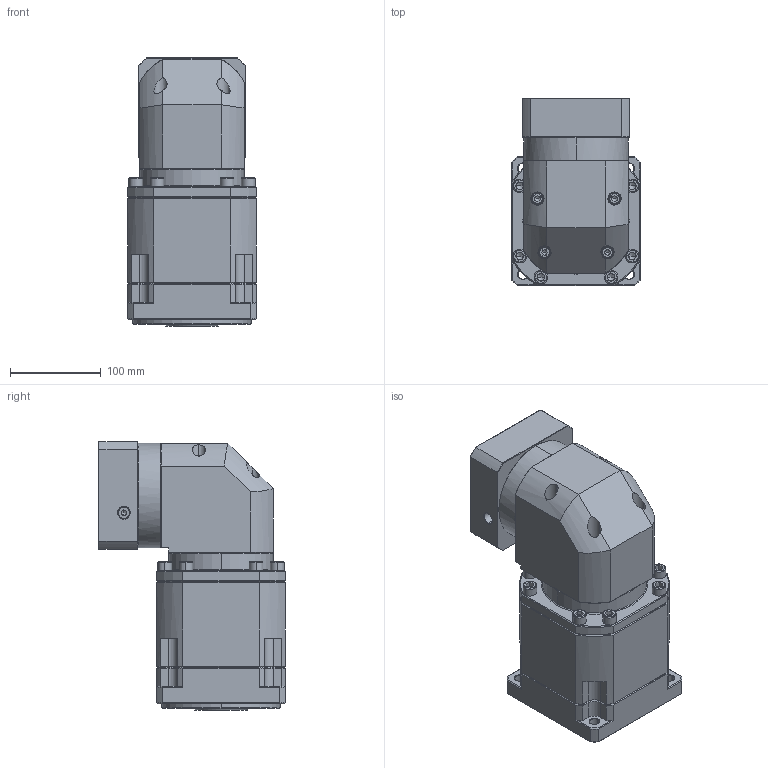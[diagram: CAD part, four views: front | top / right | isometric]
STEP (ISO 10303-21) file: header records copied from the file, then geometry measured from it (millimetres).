
FILE_DESCRIPTION (( 'STEP AP214' ), '1' );
FILE_NAME ('ZBR142A-K35-L3-P2-22-95-115-M8.step', '2023-09-02T08:15:04', ( '' ), ( '' ), 'SwSTEP 2.0', 'SolidWorks 2016', '' );
FILE_SCHEMA (( 'AUTOMOTIVE_DESIGN' ));
Length unit declared in the file: millimetre
Products named in the file (1): ZBR142A-K35-L3-P2-22-95-115-M8
Bounding box: 142 x 205.9 x 295.2 mm (x, y, z)
Volume: 4986189.6 mm3; surface area: 331145.4 mm2
Topology: 6 solids, 6 shells, 2529 faces, 6577 edges, 4173 vertices
Faces by surface type: plane 1225, cylinder 465, bspline 404, cone 391, torus 44
Entity records: 130379 total; most frequent: CARTESIAN_POINT 43833, ORIENTED_EDGE 13050, DIRECTION 10713, EDGE_CURVE 6525, LINE 4213, VECTOR 4213, VERTEX_POINT 4173, AXIS2_PLACEMENT_3D 3250
